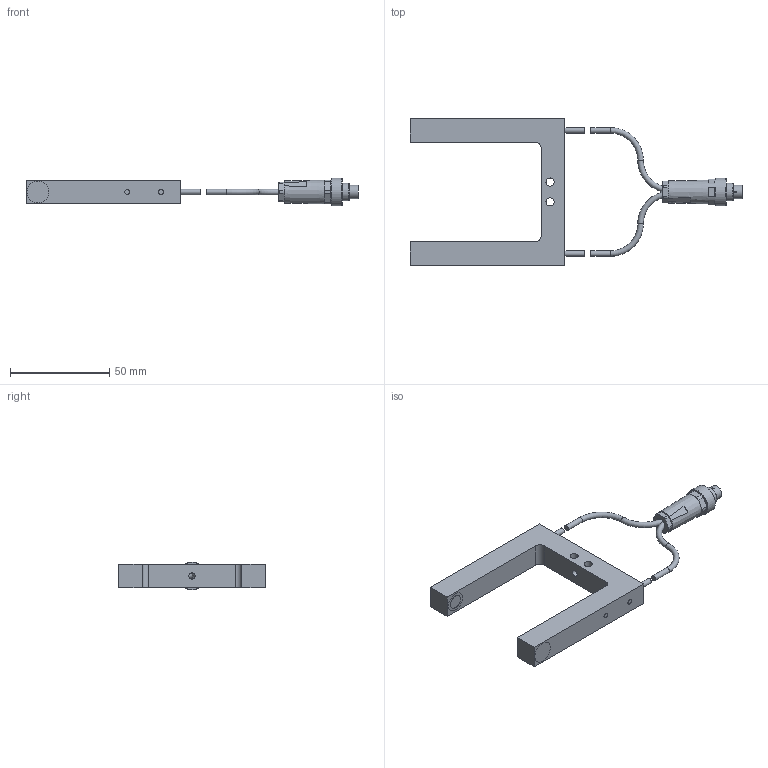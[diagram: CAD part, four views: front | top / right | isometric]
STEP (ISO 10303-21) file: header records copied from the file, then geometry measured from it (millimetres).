
FILE_DESCRIPTION(/* description */ (''),/* implementation_level */ '2;1');
FILE_NAME(/* name */ 'H:\ZVW\Inventor\E-Mail-Zeichnungen\STEP\HOMEPAGE\A-LAS-F12-...-50_60-C_0720_00.stp',/* time_stamp */ '2014-08-18T16:45:21+02:00',/* author */ ('TK-01'),/* organization */ (''),/* preprocessor_version */ 'ST-DEVELOPER v15.2',/* originating_system */ 'Autodesk Inventor 2014',/* authorisation */ '');
FILE_SCHEMA (('AUTOMOTIVE_DESIGN { 1 0 10303 214 3 1 1 }'));
Length unit declared in the file: millimetre
Products named in the file (1): Bauteil19
Bounding box: 167.1 x 74 x 14 mm (x, y, z)
Volume: 121633.4 mm3; surface area: 46063.3 mm2
Topology: 8 solids, 12 shells, 160 faces, 352 edges, 232 vertices
Faces by surface type: plane 72, cylinder 60, cone 11, sphere 9, torus 6, bspline 2
Full cylindrical faces by diameter (mm): 0.5 x7, 2.5 x8, 2.8 x4, 2.9 x2, 3.2 x1, 4.1 x2, 5.5 x1, 6 x1, 6.8 x1, 7.1 x1, 7.15 x2, 7.5 x1, 8 x1, 9 x2, 10 x2, 14 x1
Entity records: 4361 total; most frequent: CARTESIAN_POINT 931, DIRECTION 708, ORIENTED_EDGE 544, AXIS2_PLACEMENT_3D 310, EDGE_CURVE 268, EDGE_LOOP 250, VERTEX_POINT 204, ADVANCED_FACE 160
